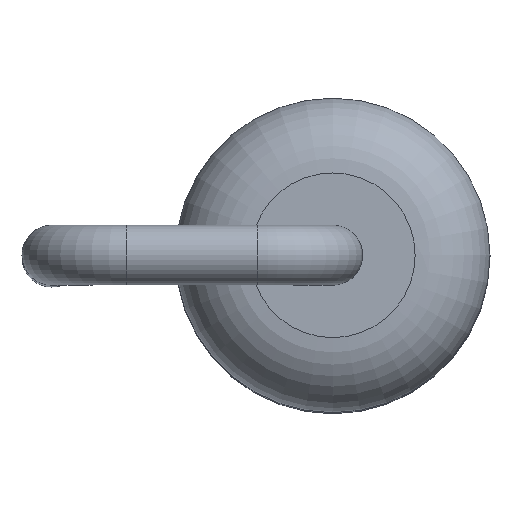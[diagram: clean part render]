
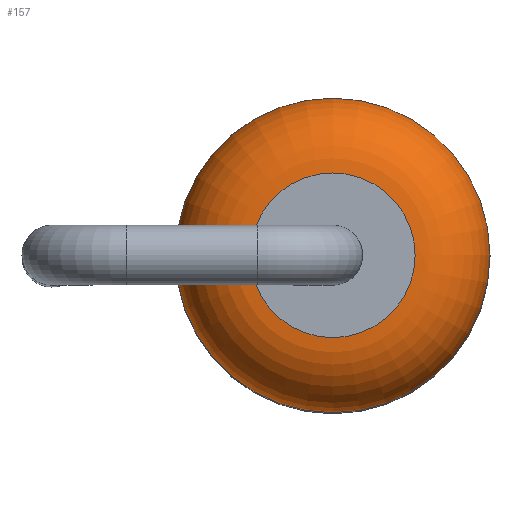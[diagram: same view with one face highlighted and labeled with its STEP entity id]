
A CAD part, top view. The second image highlights one B-rep face of the part: STEP entity #157.
In plain terms, the highlighted toroidal (fillet/blend) face has major radius 1.1 mm and minor radius 1 mm.
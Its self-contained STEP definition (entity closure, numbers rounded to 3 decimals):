
#157=ADVANCED_FACE('',(#326,#328),#330,.T.);
#326=FACE_OUTER_BOUND('',#327,.T.);
#327=EDGE_LOOP('',(#417));
#328=FACE_OUTER_BOUND('',#329,.T.);
#329=EDGE_LOOP('',(#418));
#330=TOROIDAL_SURFACE('',#331,1.1,1.);
#331=AXIS2_PLACEMENT_3D('',#332,#333,#334);
#332=CARTESIAN_POINT('',(0.,0.,4.4));
#333=DIRECTION('',(0.,0.,1.));
#334=DIRECTION('',(1.,0.,0.));
#417=ORIENTED_EDGE('',*,*,#442,.T.);
#418=ORIENTED_EDGE('',*,*,#443,.F.);
#442=EDGE_CURVE('',#470,#470,#471,.T.);
#443=EDGE_CURVE('',#472,#472,#473,.T.);
#470=VERTEX_POINT('',#536);
#471=CIRCLE('',#537,2.1);
#472=VERTEX_POINT('',#541);
#473=CIRCLE('',#542,1.1);
#536=CARTESIAN_POINT('',(2.1,0.,4.4));
#537=AXIS2_PLACEMENT_3D('',#538,#539,#540);
#538=CARTESIAN_POINT('',(0.,0.,4.4));
#539=DIRECTION('',(0.,0.,1.));
#540=DIRECTION('',(1.,0.,0.));
#541=CARTESIAN_POINT('',(1.1,0.,5.4));
#542=AXIS2_PLACEMENT_3D('',#543,#544,#545);
#543=CARTESIAN_POINT('',(0.,0.,5.4));
#544=DIRECTION('',(0.,0.,1.));
#545=DIRECTION('',(1.,0.,0.));
